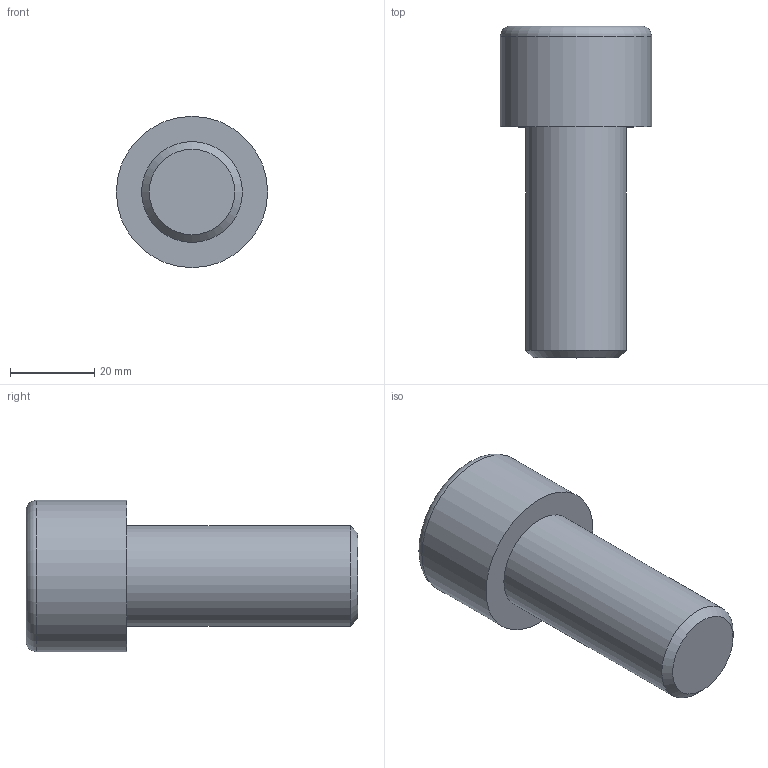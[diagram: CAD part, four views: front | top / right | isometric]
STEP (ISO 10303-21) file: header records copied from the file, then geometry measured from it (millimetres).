
FILE_DESCRIPTION(/* description */ (''),/* implementation_level */ '2;1');
FILE_NAME(/* name */ 'C:\Users\D\Documents\Inventor\各種小物\JIS\JIS B 1176 六角穴付きボルト\M24x55.stp',/* time_stamp */ '2022-05-09T18:59:58+09:00',/* author */ ('D'),/* organization */ (''),/* preprocessor_version */ 'ST-DEVELOPER v18',/* originating_system */ 'Autodesk Inventor 2020',/* authorisation */ '');
FILE_SCHEMA (('AUTOMOTIVE_DESIGN { 1 0 10303 214 3 1 1 }'));
Length unit declared in the file: millimetre
Products named in the file (1): M1.6x2.5
Bounding box: 36 x 79 x 36 mm (x, y, z)
Volume: 44525.9 mm3; surface area: 9567.1 mm2
Topology: 1 solids, 1 shells, 14 faces, 33 edges, 22 vertices
Faces by surface type: plane 9, cone 2, cylinder 2, torus 1
Full cylindrical faces by diameter (mm): 24 x1, 36 x1
Entity records: 435 total; most frequent: CARTESIAN_POINT 83, ORIENTED_EDGE 64, DIRECTION 64, EDGE_CURVE 32, AXIS2_PLACEMENT_3D 24, VERTEX_POINT 22, EDGE_LOOP 16, LINE 16
